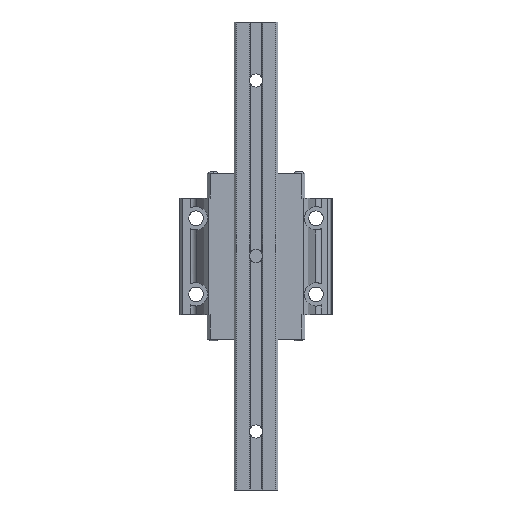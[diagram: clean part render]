
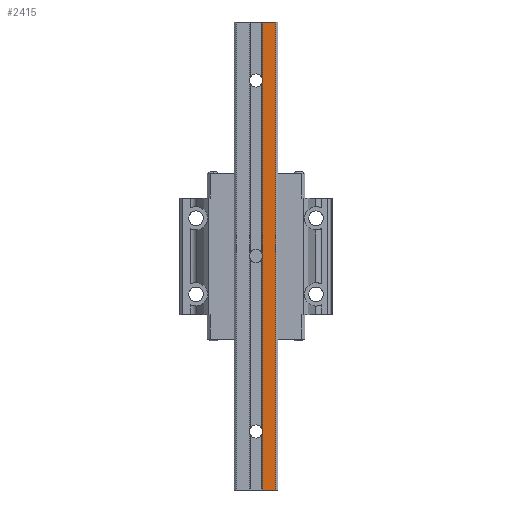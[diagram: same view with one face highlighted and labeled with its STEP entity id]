
A CAD part, front view. The second image highlights one B-rep face of the part: STEP entity #2415.
In plain terms, the highlighted planar face has unit normal (0, -1, 0).
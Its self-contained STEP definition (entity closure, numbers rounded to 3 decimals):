
#128 = VERTEX_POINT ( 'NONE', #17174 ) ;
#189 = DIRECTION ( 'NONE',  ( 0., 0., 1. ) ) ;
#1114 = ORIENTED_EDGE ( 'NONE', *, *, #15683, .T. ) ;
#1438 = DIRECTION ( 'NONE',  ( -1., 0., 0. ) ) ;
#1543 = VERTEX_POINT ( 'NONE', #7965 ) ;
#2415 = ADVANCED_FACE ( 'NONE', ( #7692 ), #3450, .T. ) ;
#3450 = PLANE ( 'NONE',  #9201 ) ;
#4056 = ORIENTED_EDGE ( 'NONE', *, *, #11135, .T. ) ;
#4393 = EDGE_LOOP ( 'NONE', ( #4056, #5934, #1114, #8986 ) ) ;
#5385 = LINE ( 'NONE', #8214, #8431 ) ;
#5934 = ORIENTED_EDGE ( 'NONE', *, *, #18651, .F. ) ;
#6815 = VECTOR ( 'NONE', #189, 1000. ) ;
#7156 = EDGE_CURVE ( 'NONE', #128, #1543, #9010, .T. ) ;
#7692 = FACE_OUTER_BOUND ( 'NONE', #4393, .T. ) ;
#7965 = CARTESIAN_POINT ( 'NONE',  ( 2.35, -24., 100. ) ) ;
#8214 = CARTESIAN_POINT ( 'NONE',  ( 0., -24., -60. ) ) ;
#8431 = VECTOR ( 'NONE', #11096, 1000. ) ;
#8986 = ORIENTED_EDGE ( 'NONE', *, *, #7156, .T. ) ;
#9010 = LINE ( 'NONE', #9110, #18491 ) ;
#9110 = CARTESIAN_POINT ( 'NONE',  ( 0., -24., 100. ) ) ;
#9201 = AXIS2_PLACEMENT_3D ( 'NONE', #12278, #15474, #9361 ) ;
#9361 = DIRECTION ( 'NONE',  ( 0., 0., -1. ) ) ;
#11096 = DIRECTION ( 'NONE',  ( -1., 0., 0. ) ) ;
#11135 = EDGE_CURVE ( 'NONE', #1543, #16136, #16513, .T. ) ;
#12096 = CARTESIAN_POINT ( 'NONE',  ( 2.35, -24., 50. ) ) ;
#12278 = CARTESIAN_POINT ( 'NONE',  ( 6.8, -24., 50. ) ) ;
#14967 = CARTESIAN_POINT ( 'NONE',  ( 6.8, -24., 50. ) ) ;
#15474 = DIRECTION ( 'NONE',  ( 0., -1., 0. ) ) ;
#15683 = EDGE_CURVE ( 'NONE', #15704, #128, #16540, .T. ) ;
#15704 = VERTEX_POINT ( 'NONE', #19313 ) ;
#16136 = VERTEX_POINT ( 'NONE', #18475 ) ;
#16513 = LINE ( 'NONE', #12096, #16583 ) ;
#16540 = LINE ( 'NONE', #14967, #6815 ) ;
#16583 = VECTOR ( 'NONE', #18290, 1000. ) ;
#17174 = CARTESIAN_POINT ( 'NONE',  ( 6.8, -24., 100. ) ) ;
#18290 = DIRECTION ( 'NONE',  ( 0., 0., -1. ) ) ;
#18475 = CARTESIAN_POINT ( 'NONE',  ( 2.35, -24., -60. ) ) ;
#18491 = VECTOR ( 'NONE', #1438, 1000. ) ;
#18651 = EDGE_CURVE ( 'NONE', #15704, #16136, #5385, .T. ) ;
#19313 = CARTESIAN_POINT ( 'NONE',  ( 6.8, -24., -60. ) ) ;
